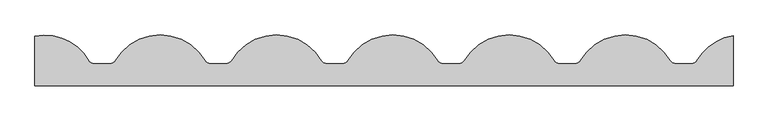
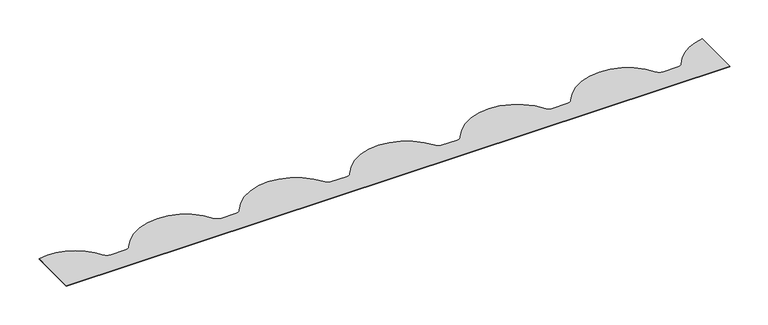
"""IFC4 building model written with IfcOpenShell, lengths in millimetres: proxy geometry, H20.F20.003-C-REMATES TEJA-Silueta : Silueta Teja - Panel 20mm."""

from ifc_helpers import new_model, si_unit, point, frame_2d, origin, origin_with_axes, place, context, project, spatial, polyline, circle_curve, trimmed, segment, composite_curve, outline, extrude, source, transform, mapped, element, save


def generic_models_13c3b65c(model_context):
    return source(origin(), model_context, "Body", "SweptSolid", [
        extrude(outline(composite_curve([segment(polyline([(0.0, 0.0), (0.0, 70.9171984)]), True, "CONTINUOUS"), segment(trimmed(circle_curve(frame_2d((14.6855969, 0.6027253)), 71.8316914), [point((0.0, 70.9171984))], [point((77.203918, 35.9757576))], False, "CARTESIAN"), True, "CONTINUOUS"), segment(trimmed(circle_curve(frame_2d((84.1180682, 40.0)), 8.0), [point((77.203918, 35.9757576))], [point((84.1180682, 32.0))], True, "CARTESIAN"), True, "CONTINUOUS"), segment(polyline([(84.1180682, 32.0), (108.1737204, 32.0)]), True, "CONTINUOUS"), segment(trimmed(circle_curve(frame_2d((108.1737204, 40.0)), 8.0), [point((108.1737204, 32.0))], [point((115.0878706, 35.9757576))], True, "CARTESIAN"), True, "CONTINUOUS"), segment(trimmed(circle_curve(frame_2d((179.4758943, -1.5)), 74.5), [point((115.0878706, 35.9757576))], [point((243.863918, 35.9757576))], False, "CARTESIAN"), True, "CONTINUOUS"), segment(trimmed(circle_curve(frame_2d((250.7780682, 40.0)), 8.0), [point((243.863918, 35.9757576))], [point((250.7780682, 32.0))], True, "CARTESIAN"), True, "CONTINUOUS"), segment(polyline([(250.7780682, 32.0), (274.8337204, 32.0)]), True, "CONTINUOUS"), segment(trimmed(circle_curve(frame_2d((274.8337204, 40.0)), 8.0), [point((274.8337204, 32.0))], [point((281.7478706, 35.9757576))], True, "CARTESIAN"), True, "CONTINUOUS"), segment(trimmed(circle_curve(frame_2d((346.1358943, -1.5)), 74.5), [point((281.7478706, 35.9757576))], [point((410.523918, 35.9757576))], False, "CARTESIAN"), True, "CONTINUOUS"), segment(trimmed(circle_curve(frame_2d((417.4380682, 40.0)), 8.0), [point((410.523918, 35.9757576))], [point((417.4380682, 32.0))], True, "CARTESIAN"), True, "CONTINUOUS"), segment(polyline([(417.4380682, 32.0), (441.4937204, 32.0)]), True, "CONTINUOUS"), segment(trimmed(circle_curve(frame_2d((441.4937204, 40.0)), 8.0), [point((441.4937204, 32.0))], [point((448.4078706, 35.9757576))], True, "CARTESIAN"), True, "CONTINUOUS"), segment(trimmed(circle_curve(frame_2d((512.7958943, -1.5)), 74.5), [point((448.4078706, 35.9757576))], [point((577.183918, 35.9757576))], False, "CARTESIAN"), True, "CONTINUOUS"), segment(trimmed(circle_curve(frame_2d((584.0980682, 40.0)), 8.0), [point((577.183918, 35.9757576))], [point((584.0980682, 32.0))], True, "CARTESIAN"), True, "CONTINUOUS"), segment(polyline([(584.0980682, 32.0), (608.1537204, 32.0)]), True, "CONTINUOUS"), segment(trimmed(circle_curve(frame_2d((608.1537204, 40.0)), 8.0), [point((608.1537204, 32.0))], [point((615.0678706, 35.9757576))], True, "CARTESIAN"), True, "CONTINUOUS"), segment(trimmed(circle_curve(frame_2d((679.4558943, -1.5)), 74.5), [point((615.0678706, 35.9757576))], [point((743.843918, 35.9757576))], False, "CARTESIAN"), True, "CONTINUOUS"), segment(trimmed(circle_curve(frame_2d((750.7580682, 40.0)), 8.0), [point((743.843918, 35.9757576))], [point((750.7580682, 32.0))], True, "CARTESIAN"), True, "CONTINUOUS"), segment(polyline([(750.7580682, 32.0), (774.8137204, 32.0)]), True, "CONTINUOUS"), segment(trimmed(circle_curve(frame_2d((774.8137204, 40.0)), 8.0), [point((774.8137204, 32.0))], [point((781.7278706, 35.9757576))], True, "CARTESIAN"), True, "CONTINUOUS"), segment(trimmed(circle_curve(frame_2d((846.1158943, -1.5)), 74.5), [point((781.7278706, 35.9757576))], [point((910.503918, 35.9757576))], False, "CARTESIAN"), True, "CONTINUOUS"), segment(trimmed(circle_curve(frame_2d((917.4180682, 40.0)), 8.0), [point((910.503918, 35.9757576))], [point((917.4180682, 32.0))], True, "CARTESIAN"), True, "CONTINUOUS"), segment(polyline([(917.4180682, 32.0), (941.4737204, 32.0)]), True, "CONTINUOUS"), segment(trimmed(circle_curve(frame_2d((941.4737204, 40.0)), 8.0), [point((941.4737204, 32.0))], [point((948.3878706, 35.9757576))], True, "CARTESIAN"), True, "CONTINUOUS"), segment(trimmed(circle_curve(frame_2d((1012.7758943, -1.5)), 74.5), [point((948.3878706, 35.9757576))], [point((1000.3814285, 71.9617398))], False, "CARTESIAN"), True, "CONTINUOUS"), segment(polyline([(1000.3814285, 71.9617398), (1000.3814285, 0.0), (0.0, 0.0)]), True, "CONTINUOUS")], self_intersect=False)), origin_with_axes(), (0.0, 0.0, 1.0), 0.8),
    ])


if __name__ == "__main__":
    model = new_model("IFC4")
    model_context = context("Model", 3, world=origin())
    ifc_project = project(units=[si_unit("LENGTHUNIT", "METRE", prefix="MILLI")], contexts=[model_context])
    site = spatial("IfcSite", under=ifc_project)
    building = spatial("IfcBuilding", under=site)
    placement = place(None, origin())
    generic_models_shape = generic_models_13c3b65c(model_context)
    element("IfcBuildingElementProxy", 1, Name="H20.F20.003-C-REMATES TEJA-Silueta : Silueta Teja - Panel 20mm", ObjectType="H20.F20.003-C-REMATES TEJA-Silueta : Silueta Teja - Panel 20mm", at=placement, inside=building, context=model_context, shape_type="MappedRepresentation", body=[
        mapped(generic_models_shape, transform((0.0, 0.0, 0.0), x_axis=(1.0, 0.0, 0.0), y_axis=(0.0, 1.0, 0.0), z_axis=(0.0, 0.0, 1.0))),
    ])
    save(model, "model.ifc")
